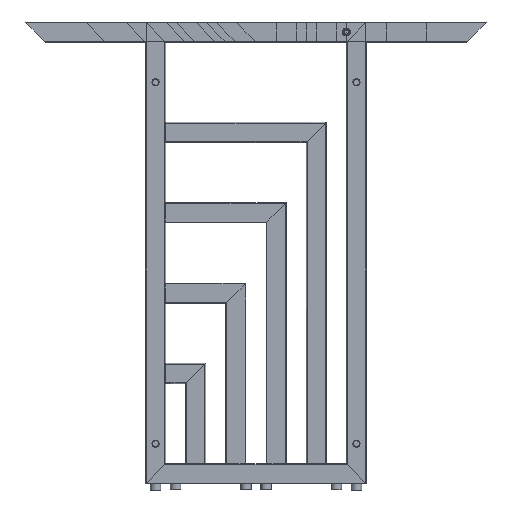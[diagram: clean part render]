
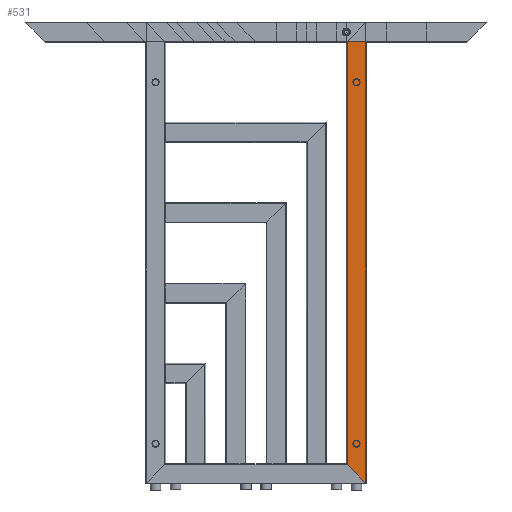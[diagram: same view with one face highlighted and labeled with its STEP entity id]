
A CAD part, left-side view. The second image highlights one B-rep face of the part: STEP entity #531.
In plain terms, the highlighted planar face has unit normal (-1, 0, 0).
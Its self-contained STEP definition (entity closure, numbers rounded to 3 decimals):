
#531 = ADVANCED_FACE( '', ( #893 ), #894, .F. );
#893 = FACE_OUTER_BOUND( '', #1392, .T. );
#894 = PLANE( '', #1393 );
#1392 = EDGE_LOOP( '', ( #2058, #2059, #2060, #2061 ) );
#1393 = AXIS2_PLACEMENT_3D( '', #2062, #2063, #2064 );
#2058 = ORIENTED_EDGE( '', *, *, #3697, .T. );
#2059 = ORIENTED_EDGE( '', *, *, #3674, .T. );
#2060 = ORIENTED_EDGE( '', *, *, #3672, .T. );
#2061 = ORIENTED_EDGE( '', *, *, #3690, .T. );
#2062 = CARTESIAN_POINT( '', ( -15., -575., 25. ) );
#2063 = DIRECTION( '', ( 1., 0., 0. ) );
#2064 = DIRECTION( '', ( 0., 0., -1. ) );
#3672 = EDGE_CURVE( '', #4273, #4275, #4277, .T. );
#3674 = EDGE_CURVE( '', #4280, #4273, #4281, .T. );
#3690 = EDGE_CURVE( '', #4275, #4307, #4309, .T. );
#3697 = EDGE_CURVE( '', #4307, #4280, #4320, .F. );
#4273 = VERTEX_POINT( '', #5181 );
#4275 = VERTEX_POINT( '', #5183 );
#4277 = LINE( '', #5185, #5186 );
#4280 = VERTEX_POINT( '', #5189 );
#4281 = LINE( '', #5190, #5191 );
#4307 = VERTEX_POINT( '', #5227 );
#4309 = LINE( '', #5229, #5230 );
#4320 = LINE( '', #5247, #5248 );
#5181 = CARTESIAN_POINT( '', ( -15., -573., 23. ) );
#5183 = CARTESIAN_POINT( '', ( -15., 573., 23. ) );
#5185 = CARTESIAN_POINT( '', ( -15., -575., 23. ) );
#5186 = VECTOR( '', #7427, 1000. );
#5189 = CARTESIAN_POINT( '', ( -15., -527., -23. ) );
#5190 = CARTESIAN_POINT( '', ( -15., -575., 25. ) );
#5191 = VECTOR( '', #7431, 1000. );
#5227 = CARTESIAN_POINT( '', ( -15., 527., -23. ) );
#5229 = CARTESIAN_POINT( '', ( -15., 0., -550. ) );
#5230 = VECTOR( '', #7457, 1000. );
#5247 = CARTESIAN_POINT( '', ( -15., -575., -23. ) );
#5248 = VECTOR( '', #7464, 1000. );
#7427 = DIRECTION( '', ( 0., 1., 0. ) );
#7431 = DIRECTION( '', ( 0., -0.707, 0.707 ) );
#7457 = DIRECTION( '', ( 0., -0.707, -0.707 ) );
#7464 = DIRECTION( '', ( 0., 1., 0. ) );
